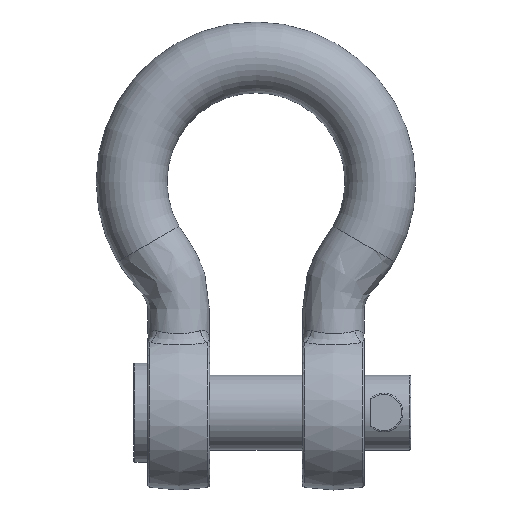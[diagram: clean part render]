
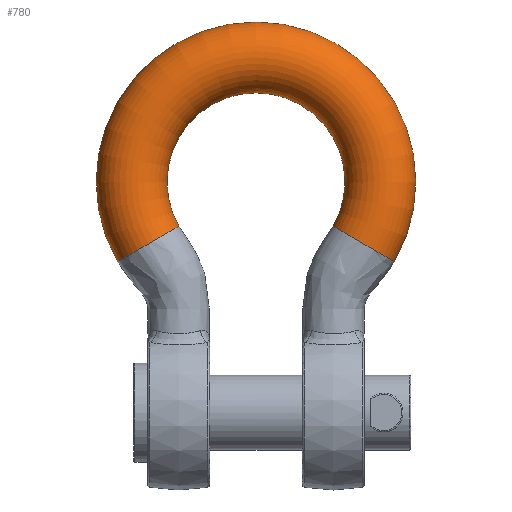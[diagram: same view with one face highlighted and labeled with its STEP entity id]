
A CAD part, top view. The second image highlights one B-rep face of the part: STEP entity #780.
In plain terms, the highlighted toroidal (fillet/blend) face has major radius 96.5 mm and minor radius 27.5 mm.
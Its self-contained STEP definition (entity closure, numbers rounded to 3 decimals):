
#68=TOROIDAL_SURFACE('',#924,96.5,27.5);
#144=FACE_OUTER_BOUND('',#192,.T.);
#192=EDGE_LOOP('',(#648,#649,#650,#651,#652,#653));
#280=CIRCLE('',#925,27.5);
#281=CIRCLE('',#926,27.5);
#282=CIRCLE('',#927,69.);
#283=CIRCLE('',#928,27.5);
#284=CIRCLE('',#929,27.5);
#358=VERTEX_POINT('',#2817);
#359=VERTEX_POINT('',#2818);
#360=VERTEX_POINT('',#2821);
#361=VERTEX_POINT('',#2823);
#462=EDGE_CURVE('',#358,#359,#280,.T.);
#463=EDGE_CURVE('',#359,#358,#281,.T.);
#464=EDGE_CURVE('',#359,#360,#282,.T.);
#465=EDGE_CURVE('',#360,#361,#283,.T.);
#466=EDGE_CURVE('',#361,#360,#284,.T.);
#648=ORIENTED_EDGE('',*,*,#462,.F.);
#649=ORIENTED_EDGE('',*,*,#463,.F.);
#650=ORIENTED_EDGE('',*,*,#464,.T.);
#651=ORIENTED_EDGE('',*,*,#465,.T.);
#652=ORIENTED_EDGE('',*,*,#466,.T.);
#653=ORIENTED_EDGE('',*,*,#464,.F.);
#780=ADVANCED_FACE('',(#144),#68,.T.);
#924=AXIS2_PLACEMENT_3D('',#2816,#1085,#1086);
#925=AXIS2_PLACEMENT_3D('',#2819,#1087,#1088);
#926=AXIS2_PLACEMENT_3D('',#2820,#1089,#1090);
#927=AXIS2_PLACEMENT_3D('',#2822,#1091,#1092);
#928=AXIS2_PLACEMENT_3D('',#2824,#1093,#1094);
#929=AXIS2_PLACEMENT_3D('',#2825,#1095,#1096);
#1085=DIRECTION('center_axis',(0.,0.,1.));
#1086=DIRECTION('ref_axis',(0.,1.,0.));
#1087=DIRECTION('center_axis',(0.5,-0.866,0.));
#1088=DIRECTION('ref_axis',(-0.866,-0.5,0.));
#1089=DIRECTION('center_axis',(0.5,-0.866,0.));
#1090=DIRECTION('ref_axis',(-0.866,-0.5,0.));
#1091=DIRECTION('center_axis',(0.,0.,-1.));
#1092=DIRECTION('ref_axis',(0.,1.,0.));
#1093=DIRECTION('center_axis',(0.5,0.866,0.));
#1094=DIRECTION('ref_axis',(0.866,-0.5,0.));
#1095=DIRECTION('center_axis',(0.5,0.866,0.));
#1096=DIRECTION('ref_axis',(0.866,-0.5,0.));
#2816=CARTESIAN_POINT('Origin',(0.,179.,0.));
#2817=CARTESIAN_POINT('',(-107.387,117.,0.));
#2818=CARTESIAN_POINT('',(-59.756,144.5,0.));
#2819=CARTESIAN_POINT('Origin',(-83.571,130.75,0.));
#2820=CARTESIAN_POINT('Origin',(-83.571,130.75,0.));
#2821=CARTESIAN_POINT('',(59.756,144.5,0.));
#2822=CARTESIAN_POINT('Origin',(0.,179.,0.));
#2823=CARTESIAN_POINT('',(107.387,117.,0.));
#2824=CARTESIAN_POINT('Origin',(83.571,130.75,0.));
#2825=CARTESIAN_POINT('Origin',(83.571,130.75,0.));
